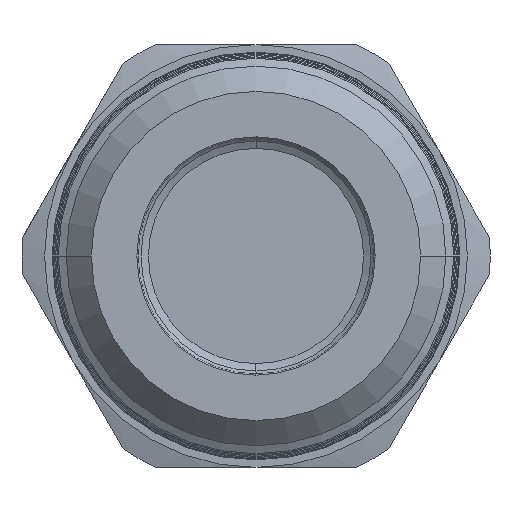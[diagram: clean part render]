
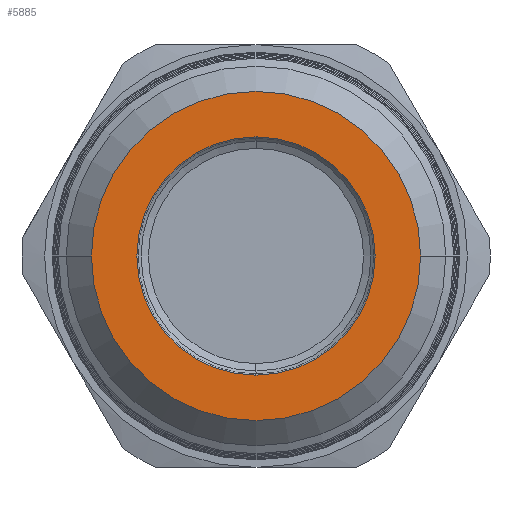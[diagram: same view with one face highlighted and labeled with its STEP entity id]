
A CAD part, left-side view. The second image highlights one B-rep face of the part: STEP entity #5885.
In plain terms, the highlighted planar face has unit normal (-1, 0, 0).
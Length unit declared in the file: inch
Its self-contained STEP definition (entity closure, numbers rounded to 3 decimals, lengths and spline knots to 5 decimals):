
#961 = EDGE_CURVE ( 'NONE', #5989, #5382, #11021, .T. ) ;
#1360 = ORIENTED_EDGE ( 'NONE', *, *, #5582, .T. ) ;
#1361 = ORIENTED_EDGE ( 'NONE', *, *, #5585, .T. ) ;
#1362 = ORIENTED_EDGE ( 'NONE', *, *, #5763, .T. ) ;
#1363 = ORIENTED_EDGE ( 'NONE', *, *, #961, .T. ) ;
#5118 = VERTEX_POINT ( 'NONE', #13330 ) ;
#5130 = VERTEX_POINT ( 'NONE', #13339 ) ;
#5382 = VERTEX_POINT ( 'NONE', #13537 ) ;
#5582 = EDGE_CURVE ( 'NONE', #5118, #5130, #15181, .T. ) ;
#5585 = EDGE_CURVE ( 'NONE', #5130, #5118, #15186, .T. ) ;
#5763 = EDGE_CURVE ( 'NONE', #5382, #5989, #16428, .T. ) ;
#5885 = ADVANCED_FACE ( 'NONE', ( #16231, #16232 ), #16233, .F. ) ;
#5989 = VERTEX_POINT ( 'NONE', #17117 ) ;
#7971 = AXIS2_PLACEMENT_3D ( 'NONE', #11413, #11414, #11415 ) ;
#11021 = CIRCLE ( 'NONE', #7971, 0.21799 ) ;
#11413 = CARTESIAN_POINT ( 'NONE',  ( -3.23953, 0.10086, 1.21219 ) ) ;
#11414 = DIRECTION ( 'NONE',  ( -1., 0., 0. ) ) ;
#11415 = DIRECTION ( 'NONE',  ( 0., -1., 0. ) ) ;
#13330 = CARTESIAN_POINT ( 'NONE',  ( -3.23953, 0.10086, 1.37 ) ) ;
#13339 = CARTESIAN_POINT ( 'NONE',  ( -3.23953, 0.10086, 1.05438 ) ) ;
#13537 = CARTESIAN_POINT ( 'NONE',  ( -3.23953, 0.31885, 1.21219 ) ) ;
#14669 = CARTESIAN_POINT ( 'NONE',  ( -3.23953, 0.10086, 1.21219 ) ) ;
#14670 = DIRECTION ( 'NONE',  ( 1., 0., 0. ) ) ;
#14671 = DIRECTION ( 'NONE',  ( 0., 0., -1. ) ) ;
#14676 = CARTESIAN_POINT ( 'NONE',  ( -3.23953, 0.10086, 1.21219 ) ) ;
#14677 = DIRECTION ( 'NONE',  ( 1., 0., 0. ) ) ;
#14678 = DIRECTION ( 'NONE',  ( 0., 0., -1. ) ) ;
#15181 = CIRCLE ( 'NONE', #15184, 0.15781 ) ;
#15184 = AXIS2_PLACEMENT_3D ( 'NONE', #14669, #14670, #14671 ) ;
#15186 = CIRCLE ( 'NONE', #15189, 0.15781 ) ;
#15189 = AXIS2_PLACEMENT_3D ( 'NONE', #14676, #14677, #14678 ) ;
#15684 = CARTESIAN_POINT ( 'NONE',  ( -3.23953, 0.10086, 1.21219 ) ) ;
#15685 = DIRECTION ( 'NONE',  ( -1., 0., 0. ) ) ;
#15686 = DIRECTION ( 'NONE',  ( 0., -1., 0. ) ) ;
#16228 = CARTESIAN_POINT ( 'NONE',  ( -3.23953, 0.42417, 1.21219 ) ) ;
#16231 = FACE_BOUND ( 'NONE', #17458, .T. ) ;
#16232 = FACE_OUTER_BOUND ( 'NONE', #17460, .T. ) ;
#16233 = PLANE ( 'NONE',  #16546 ) ;
#16235 = DIRECTION ( 'NONE',  ( 1., 0., 0. ) ) ;
#16236 = DIRECTION ( 'NONE',  ( 0., 0., -1. ) ) ;
#16428 = CIRCLE ( 'NONE', #16431, 0.21799 ) ;
#16431 = AXIS2_PLACEMENT_3D ( 'NONE', #15684, #15685, #15686 ) ;
#16546 = AXIS2_PLACEMENT_3D ( 'NONE', #16228, #16235, #16236 ) ;
#17117 = CARTESIAN_POINT ( 'NONE',  ( -3.23953, -0.11714, 1.21219 ) ) ;
#17458 = EDGE_LOOP ( 'NONE', ( #1360, #1361 ) ) ;
#17460 = EDGE_LOOP ( 'NONE', ( #1362, #1363 ) ) ;
